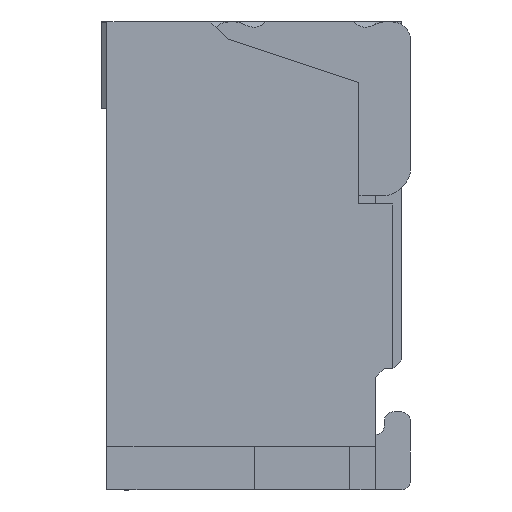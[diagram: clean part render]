
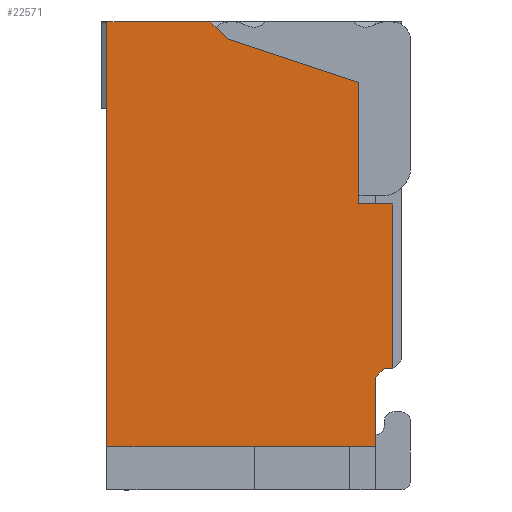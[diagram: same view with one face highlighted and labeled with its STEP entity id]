
A CAD part, left-side view. The second image highlights one B-rep face of the part: STEP entity #22571.
In plain terms, the highlighted planar face has unit normal (-1, 0, 0).
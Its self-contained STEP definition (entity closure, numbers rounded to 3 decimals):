
#457=DIRECTION('',(0.,0.,1.));
#458=VECTOR('',#457,2.45);
#459=CARTESIAN_POINT('',(-6.5,1.7,0.25));
#460=LINE('',#459,#458);
#7691=DIRECTION('',(0.,1.,0.));
#7692=VECTOR('',#7691,1.55);
#7693=CARTESIAN_POINT('',(-6.5,0.15,0.25));
#7694=LINE('',#7693,#7692);
#8339=DIRECTION('',(0.,1.,0.));
#8340=VECTOR('',#8339,0.6);
#8341=CARTESIAN_POINT('',(-6.5,1.1,2.7));
#8342=LINE('',#8341,#8340);
#8343=DIRECTION('',(0.,0.707,0.707));
#8344=VECTOR('',#8343,0.141);
#8345=CARTESIAN_POINT('',(-6.5,1.,2.6));
#8346=LINE('',#8345,#8344);
#8347=DIRECTION('',(0.,0.949,0.316));
#8348=VECTOR('',#8347,0.791);
#8349=CARTESIAN_POINT('',(-6.5,0.25,2.35));
#8350=LINE('',#8349,#8348);
#8351=DIRECTION('',(0.,0.,1.));
#8352=VECTOR('',#8351,0.7);
#8353=CARTESIAN_POINT('',(-6.5,0.25,1.65));
#8354=LINE('',#8353,#8352);
#8355=DIRECTION('',(0.,1.,0.));
#8356=VECTOR('',#8355,0.2);
#8357=CARTESIAN_POINT('',(-6.5,0.05,1.65));
#8358=LINE('',#8357,#8356);
#8359=DIRECTION('',(0.,0.,1.));
#8360=VECTOR('',#8359,0.95);
#8361=CARTESIAN_POINT('',(-6.5,0.05,0.7));
#8362=LINE('',#8361,#8360);
#8363=DIRECTION('',(0.,-1.,0.));
#8364=VECTOR('',#8363,0.05);
#8365=CARTESIAN_POINT('',(-6.5,0.1,0.7));
#8366=LINE('',#8365,#8364);
#8367=DIRECTION('',(0.,-0.707,0.707));
#8368=VECTOR('',#8367,0.071);
#8369=CARTESIAN_POINT('',(-6.5,0.15,0.65));
#8370=LINE('',#8369,#8368);
#8371=DIRECTION('',(0.,0.,1.));
#8372=VECTOR('',#8371,0.4);
#8373=CARTESIAN_POINT('',(-6.5,0.15,0.25));
#8374=LINE('',#8373,#8372);
#9547=CARTESIAN_POINT('',(-6.5,0.05,1.65));
#9548=VERTEX_POINT('',#9547);
#9549=CARTESIAN_POINT('',(-6.5,0.25,1.65));
#9550=VERTEX_POINT('',#9549);
#9575=CARTESIAN_POINT('',(-6.5,1.,2.6));
#9576=CARTESIAN_POINT('',(-6.5,1.1,2.7));
#9577=VERTEX_POINT('',#9575);
#9578=VERTEX_POINT('',#9576);
#9579=CARTESIAN_POINT('',(-6.5,0.25,2.35));
#9580=VERTEX_POINT('',#9579);
#9581=CARTESIAN_POINT('',(-6.5,0.05,0.7));
#9582=VERTEX_POINT('',#9581);
#9583=CARTESIAN_POINT('',(-6.5,0.1,0.7));
#9584=VERTEX_POINT('',#9583);
#9585=CARTESIAN_POINT('',(-6.5,0.15,0.65));
#9586=VERTEX_POINT('',#9585);
#9587=CARTESIAN_POINT('',(-6.5,0.15,0.25));
#9588=VERTEX_POINT('',#9587);
#9589=CARTESIAN_POINT('',(-6.5,1.7,0.25));
#9590=VERTEX_POINT('',#9589);
#9591=CARTESIAN_POINT('',(-6.5,1.7,2.7));
#9592=VERTEX_POINT('',#9591);
#22550=CARTESIAN_POINT('',(-6.5,0.049,2.701));
#22551=DIRECTION('',(-1.,0.,0.));
#22552=DIRECTION('',(0.,1.,0.));
#22553=AXIS2_PLACEMENT_3D('',#22550,#22551,#22552);
#22554=PLANE('',#22553);
#22555=ORIENTED_EDGE('',*,*,#12576,.F.);
#22557=ORIENTED_EDGE('',*,*,#22556,.F.);
#22559=ORIENTED_EDGE('',*,*,#22558,.F.);
#22560=ORIENTED_EDGE('',*,*,#12389,.F.);
#22561=ORIENTED_EDGE('',*,*,#12414,.F.);
#22563=ORIENTED_EDGE('',*,*,#22562,.F.);
#22564=ORIENTED_EDGE('',*,*,#22526,.F.);
#22565=ORIENTED_EDGE('',*,*,#22543,.F.);
#22566=ORIENTED_EDGE('',*,*,#12887,.F.);
#22567=ORIENTED_EDGE('',*,*,#21598,.T.);
#22568=ORIENTED_EDGE('',*,*,#12666,.T.);
#22569=EDGE_LOOP('',(#22555,#22557,#22559,#22560,#22561,#22563,#22564,#22565,
#22566,#22567,#22568));
#22570=FACE_OUTER_BOUND('',#22569,.F.);
#22571=ADVANCED_FACE('',(#22570),#22554,.T.);
#12389=EDGE_CURVE('',#9550,#9580,#8354,.T.);
#12414=EDGE_CURVE('',#9548,#9550,#8358,.T.);
#12576=EDGE_CURVE('',#9578,#9592,#8342,.T.);
#12666=EDGE_CURVE('',#9590,#9592,#460,.T.);
#12887=EDGE_CURVE('',#9588,#9586,#8374,.T.);
#21598=EDGE_CURVE('',#9588,#9590,#7694,.T.);
#22526=EDGE_CURVE('',#9584,#9582,#8366,.T.);
#22543=EDGE_CURVE('',#9586,#9584,#8370,.T.);
#22556=EDGE_CURVE('',#9577,#9578,#8346,.T.);
#22558=EDGE_CURVE('',#9580,#9577,#8350,.T.);
#22562=EDGE_CURVE('',#9582,#9548,#8362,.T.);
